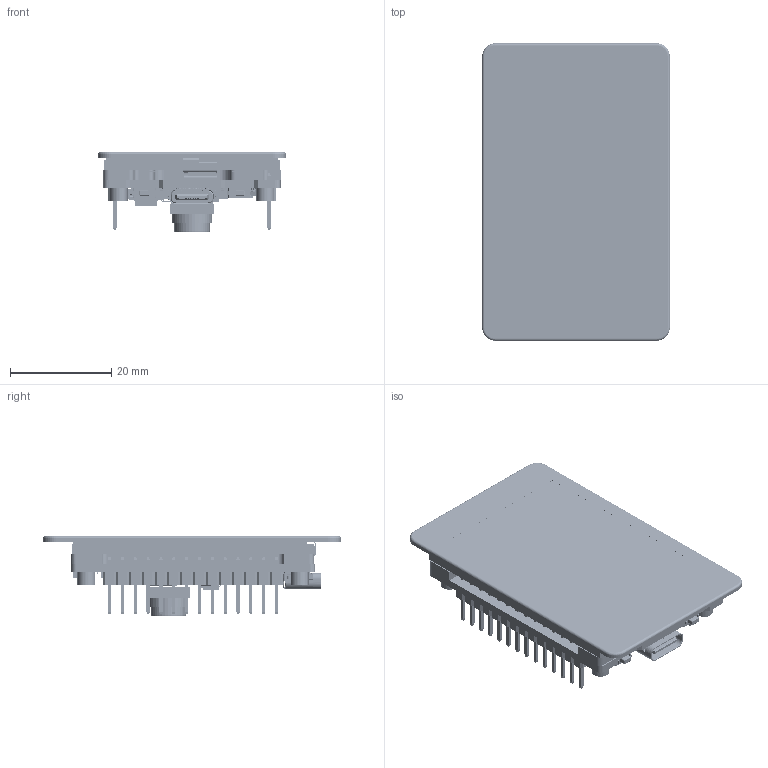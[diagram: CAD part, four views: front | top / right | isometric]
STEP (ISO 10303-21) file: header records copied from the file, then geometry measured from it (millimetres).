
FILE_DESCRIPTION((''),'2;1');
FILE_NAME('ESP32-S3-TOUCH-LCD-2_ASM','2025-01-21T17:43:41',('xiaojisheng'),(''),'CREO PARAMETRIC BY PTC INC, 2021063','CREO PARAMETRIC BY PTC INC, 2021063','');
FILE_SCHEMA(('CONFIG_CONTROL_DESIGN','SHAPE_APPEARANCE_LAYERS_GROUPS'));
Products named in the file (179): HXR20062C21-LCM; HXR20062C21-TP; HXR20062C21_ASM; BOARD; USER_LIBRARY-RES_0603-0201_1; USER_LIBRARY-RES_0603-0201_2; USER_LIBRARY-RES_0603-0201_3; USER_LIBRARY-RES_0603-0201_4; USER_LIBRARY-RES_0603-0201_ASM; L2_ASM; SOT23-5AND6_00; SOT23-5-14065_AF0; SOT23-5-14113_AF0_ASM_ASM; SOT23-5-2_ASM; U7_ASM; R27_ASM; R24_ASM; R22_ASM; USER_LIBRARY-LED_0603_R_P-73782; USER_LIBRARY-LED_0603_R_PAD004; USER_LIBRARY-LED_0603_R_FILLET; USER_LIBRARY-LED_0603_R_P-76137; USER_LIBRARY-LED_0603_R_PAD; USER_LIBRARY-LED_0603_R_ASM; LED2_ASM; USER_LIBRARY-0201_0603M__CAP_1; USER_LIBRARY-0201_0603M__CAP_2; USER_LIBRARY-0201_0603M__CAP_3; USER_LIBRARY-0201_0603M__CAP_ASM; C11_ASM; C12_ASM; C19_ASM; C30_ASM; C17_ASM; C29_ASM; C13_ASM; C3_ASM; _1_10001; 3_1_A; 2_100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
Assembly tree (254 placements, depth 9):
  ESP32-S3-TOUCH-LCD-2_ASM
    HXR20062C21_ASM
      HXR20062C21-LCM
      HXR20062C21-TP
    ESP32-S3-TOUCH-LCD-2-PCBA_ASM
      ESP32-S3-TOUCH-LCD-2-PCB_ASM
        PCB_ASM
          BOARD
          L2_ASM
            USER_LIBRARY-RES_0603-0201_ASM
              USER_LIBRARY-RES_0603-0201_1
              USER_LIBRARY-RES_0603-0201_2
              USER_LIBRARY-RES_0603-0201_3
              USER_LIBRARY-RES_0603-0201_4
          U7_ASM
            SOT23-5-2_ASM
              SOT23-5-14113_AF0_ASM_ASM
                SOT23-5AND6_00  x5
                SOT23-5-14065_AF0
          R27_ASM
            USER_LIBRARY-RES_0603-0201_ASM
              USER_LIBRARY-RES_0603-0201_1
              USER_LIBRARY-RES_0603-0201_2
              USER_LIBRARY-RES_0603-0201_3
              USER_LIBRARY-RES_0603-0201_4
          R24_ASM
            USER_LIBRARY-RES_0603-0201_ASM
              USER_LIBRARY-RES_0603-0201_1
              USER_LIBRARY-RES_0603-0201_2
              USER_LIBRARY-RES_0603-0201_3
              USER_LIBRARY-RES_0603-0201_4
          R22_ASM
            USER_LIBRARY-RES_0603-0201_ASM
              USER_LIBRARY-RES_0603-0201_1
              USER_LIBRARY-RES_0603-0201_2
              USER_LIBRARY-RES_0603-0201_3
              USER_LIBRARY-RES_0603-0201_4
          LED2_ASM
            USER_LIBRARY-LED_0603_R_ASM
              USER_LIBRARY-LED_0603_R_P-73782
              USER_LIBRARY-LED_0603_R_PAD004
              USER_LIBRARY-LED_0603_R_FILLET
              USER_LIBRARY-LED_0603_R_P-76137
              USER_LIBRARY-LED_0603_R_PAD
          C11_ASM
            USER_LIBRARY-0201_0603M__CAP_ASM
              USER_LIBRARY-0201_0603M__CAP_1
              USER_LIBRARY-0201_0603M__CAP_2
              USER_LIBRARY-0201_0603M__CAP_3
          C12_ASM
            USER_LIBRARY-0201_0603M__CAP_ASM
              USER_LIBRARY-0201_0603M__CAP_1
              USER_LIBRARY-0201_0603M__CAP_2
              USER_LIBRARY-0201_0603M__CAP_3
          C19_ASM
            USER_LIBRARY-0201_0603M__CAP_ASM
              USER_LIBRARY-0201_0603M__CAP_1
              USER_LIBRARY-0201_0603M__CAP_2
              USER_LIBRARY-0201_0603M__CAP_3
          C30_ASM
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Bounding box: 37.1 x 58.8 x 15.8 mm (x, y, z)
Volume: 11985.2 mm3; surface area: 20738.8 mm2
Topology: 326 solids, 341 shells, 18013 faces, 47425 edges, 30753 vertices
Faces by surface type: plane 12024, extrusion 3295, cylinder 2221, sphere 331, cone 62, torus 46, bspline 34
Entity records: 311305 total; most frequent: CARTESIAN_POINT 64578, ORIENTED_EDGE 40534, DIRECTION 36927, EDGE_CURVE 20270, VECTOR 16747, LINE 16167, PRESENTATION_STYLE_ASSIGNMENT 15130, STYLED_ITEM 14145
